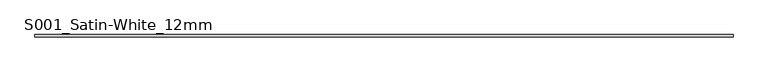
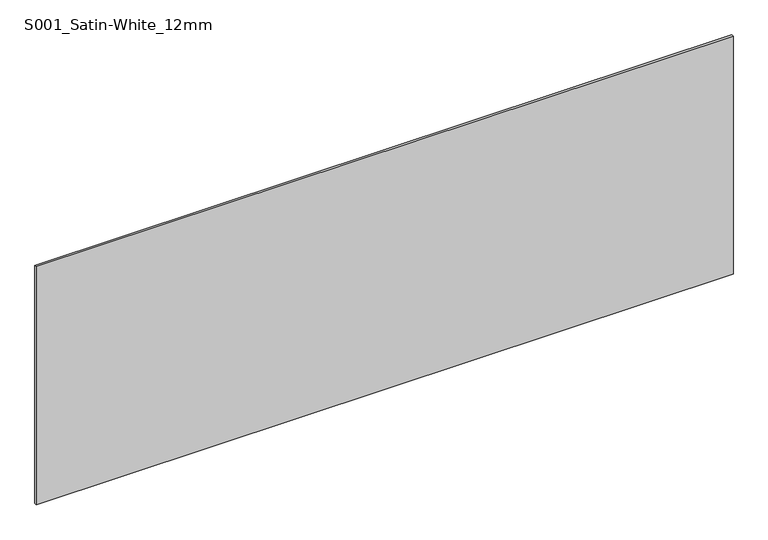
"""IFC4 building model written with IfcOpenShell, lengths in millimetres: plate geometry, Curtain-Panels_Outdoor-Material_HI-MACS_Solids : S001_Satin-White_12mm."""

from ifc_helpers import new_model, si_unit, origin, origin_with_axes, place, context, project, spatial, polyline, outline, extrude, source, transform, mapped, element, save


def s001_satin_white_12mm_d668b75a(model_context):
    return source(origin(), model_context, "Body", "SweptSolid", [
        extrude(outline(polyline([(1840.0, 6.0), (1840.0, -6.0), (-1840.0, -6.0), (-1840.0, 6.0), (1840.0, 6.0)])), origin_with_axes(), (0.0, 0.0, 1.0), 1330.2413287),
    ])


if __name__ == "__main__":
    model = new_model("IFC4")
    model_context = context("Model", 3, world=origin())
    ifc_project = project(units=[si_unit("LENGTHUNIT", "METRE", prefix="MILLI")], contexts=[model_context])
    site = spatial("IfcSite", under=ifc_project)
    building = spatial("IfcBuilding", under=site)
    placement = place(None, origin())
    s001_satin_white_12mm_shape = s001_satin_white_12mm_d668b75a(model_context)
    element("IfcPlate", 1, ObjectType="Curtain-Panels_Outdoor-Material_HI-MACS_Solids : S001_Satin-White_12mm", at=placement, inside=building, context=model_context, shape_type="MappedRepresentation", body=[
        mapped(s001_satin_white_12mm_shape, transform((0.0, 0.0, 0.0), x_axis=(1.0, 0.0, 0.0), y_axis=(0.0, 1.0, 0.0), z_axis=(0.0, 0.0, 1.0))),
    ])
    save(model, "model.ifc")
